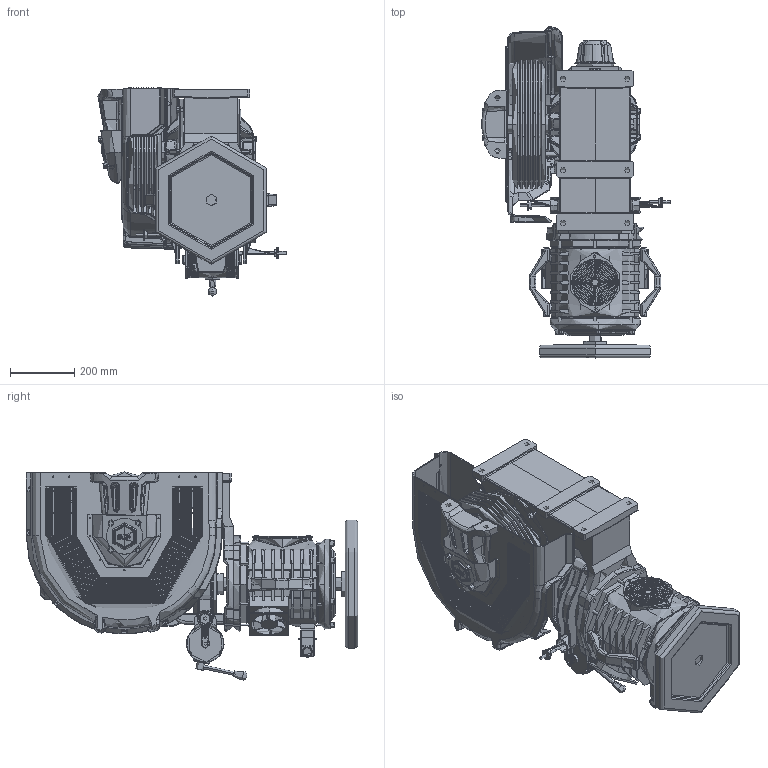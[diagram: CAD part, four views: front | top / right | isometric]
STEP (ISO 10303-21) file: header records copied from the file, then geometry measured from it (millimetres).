
FILE_DESCRIPTION (( 'STEP AP214' ), '1' );
FILE_NAME ('STC5503021.STEP', '2026-01-20T08:23:39', ( '' ), ( '' ), 'SwSTEP 2.0', 'SolidWorks 2023', '' );
FILE_SCHEMA (( 'AUTOMOTIVE_DESIGN' ));
Length unit declared in the file: millimetre
Products named in the file (1): STC5503021
Bounding box: 586.99 x 1034.16 x 649.18 mm (x, y, z)
Topology: 84 solids, 92 shells, 7866 faces, 19688 edges, 11848 vertices
Faces by surface type: plane 2398, cylinder 2241, bspline 1843, torus 702, cone 564, sphere 118
Full cylindrical faces by diameter (mm): 20 x3
Entity records: 305655 total; most frequent: CARTESIAN_POINT 131640, ORIENTED_EDGE 39006, DIRECTION 33030, EDGE_CURVE 19503, AXIS2_PLACEMENT_3D 13007, VERTEX_POINT 11812, EDGE_LOOP 8625, ADVANCED_FACE 7864
